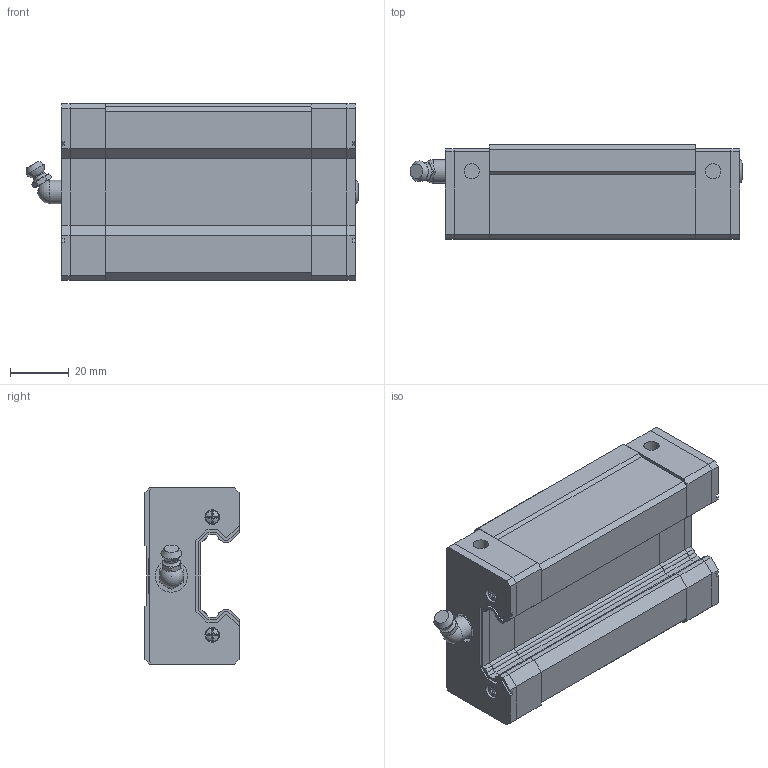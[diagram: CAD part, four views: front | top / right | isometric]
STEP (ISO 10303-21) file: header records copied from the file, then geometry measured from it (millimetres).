
FILE_DESCRIPTION(('FreeCAD Model'),'2;1');
FILE_NAME('Open CASCADE Shape Model','2024-12-05T16:36:52',('Author'),( ''),'Open CASCADE STEP processor 7.6','FreeCAD','Unknown');
FILE_SCHEMA(('AUTOMOTIVE_DESIGN { 1 0 10303 214 1 1 1 1 }'));
Length unit declared in the file: millimetre
Products named in the file (7): EH30CA; _GEH30CA_slider; _GEC30_C; _GEC30_P; _GH30_SCREW; _GH30_BOLT; _GH30-_G
Assembly tree (11 placements, depth 2):
  EH30CA
    _GEH30CA_slider
    _GEC30_C  x2
    _GEC30_P  x2
    _GH30_SCREW  x4
    _GH30_BOLT
    _GH30-_G
Bounding box: 112.8 x 32 x 60 mm (x, y, z)
Volume: 151136.2 mm3; surface area: 38980.6 mm2
Topology: 11 solids, 11 shells, 373 faces, 962 edges, 631 vertices
Faces by surface type: plane 290, cylinder 51, cone 20, torus 6, sphere 5, bspline 1
Full cylindrical faces by diameter (mm): 2.2 x4, 4.5 x1, 4.65 x4, 5 x4, 5.2 x4, 6 x2, 6.5 x2, 6.647 x4, 7.1 x2, 8 x1, 8.2 x1, 11 x2
Entity records: 6852 total; most frequent: CARTESIAN_POINT 1349, ORIENTED_EDGE 1106, DIRECTION 1050, EDGE_CURVE 553, LINE 390, VECTOR 390, VERTEX_POINT 361, AXIS2_PLACEMENT_3D 330
